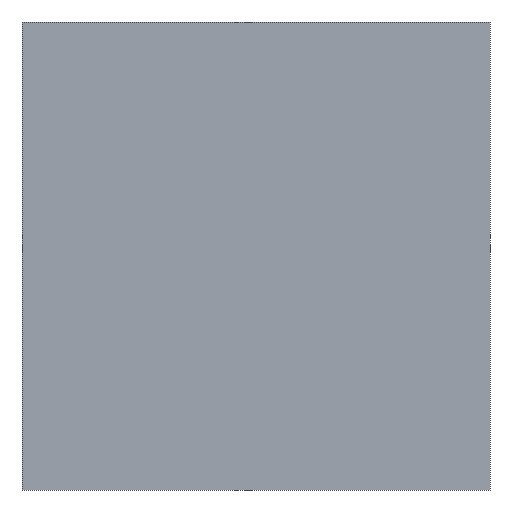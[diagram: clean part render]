
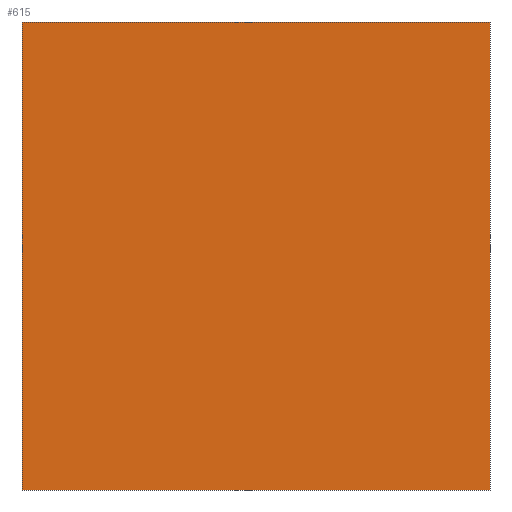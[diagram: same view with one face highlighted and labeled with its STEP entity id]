
A CAD part, front view. The second image highlights one B-rep face of the part: STEP entity #615.
In plain terms, the highlighted planar face has unit normal (0, -1, 0).
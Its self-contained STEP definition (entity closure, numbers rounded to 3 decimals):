
#23 = ORIENTED_EDGE ( 'NONE', *, *, #365, .F. ) ;
#30 = DIRECTION ( 'NONE',  ( 0., 0., -1. ) ) ;
#65 = DIRECTION ( 'NONE',  ( 1., 0., 0. ) ) ;
#91 = FACE_OUTER_BOUND ( 'NONE', #436, .T. ) ;
#99 = CARTESIAN_POINT ( 'NONE',  ( -55., 68., -55. ) ) ;
#111 = VERTEX_POINT ( 'NONE', #636 ) ;
#156 = ORIENTED_EDGE ( 'NONE', *, *, #555, .F. ) ;
#191 = CARTESIAN_POINT ( 'NONE',  ( -55., 68., -55. ) ) ;
#197 = DIRECTION ( 'NONE',  ( 0., -1., 0. ) ) ;
#242 = VERTEX_POINT ( 'NONE', #609 ) ;
#247 = AXIS2_PLACEMENT_3D ( 'NONE', #191, #197, #760 ) ;
#297 = VECTOR ( 'NONE', #30, 1000. ) ;
#322 = DIRECTION ( 'NONE',  ( 0., 0., 1. ) ) ;
#327 = LINE ( 'NONE', #603, #553 ) ;
#351 = VERTEX_POINT ( 'NONE', #99 ) ;
#360 = EDGE_CURVE ( 'NONE', #111, #242, #744, .T. ) ;
#365 = EDGE_CURVE ( 'NONE', #242, #351, #327, .T. ) ;
#381 = PLANE ( 'NONE',  #247 ) ;
#400 = CARTESIAN_POINT ( 'NONE',  ( -55., 68., 55. ) ) ;
#436 = EDGE_LOOP ( 'NONE', ( #751, #156, #23, #536 ) ) ;
#470 = VECTOR ( 'NONE', #322, 1000. ) ;
#529 = VERTEX_POINT ( 'NONE', #592 ) ;
#536 = ORIENTED_EDGE ( 'NONE', *, *, #360, .F. ) ;
#547 = VECTOR ( 'NONE', #65, 1000. ) ;
#553 = VECTOR ( 'NONE', #756, 1000. ) ;
#555 = EDGE_CURVE ( 'NONE', #351, #529, #752, .T. ) ;
#592 = CARTESIAN_POINT ( 'NONE',  ( -55., 68., 55. ) ) ;
#603 = CARTESIAN_POINT ( 'NONE',  ( -55., 68., -55. ) ) ;
#609 = CARTESIAN_POINT ( 'NONE',  ( 55., 68., -55. ) ) ;
#615 = ADVANCED_FACE ( 'NONE', ( #91 ), #381, .T. ) ;
#636 = CARTESIAN_POINT ( 'NONE',  ( 55., 68., 55. ) ) ;
#648 = CARTESIAN_POINT ( 'NONE',  ( 55., 68., 55. ) ) ;
#670 = EDGE_CURVE ( 'NONE', #529, #111, #865, .T. ) ;
#676 = CARTESIAN_POINT ( 'NONE',  ( 55., 68., -55. ) ) ;
#744 = LINE ( 'NONE', #676, #297 ) ;
#751 = ORIENTED_EDGE ( 'NONE', *, *, #670, .F. ) ;
#752 = LINE ( 'NONE', #400, #470 ) ;
#756 = DIRECTION ( 'NONE',  ( -1., 0., 0. ) ) ;
#760 = DIRECTION ( 'NONE',  ( 1., 0., 0. ) ) ;
#865 = LINE ( 'NONE', #648, #547 ) ;
